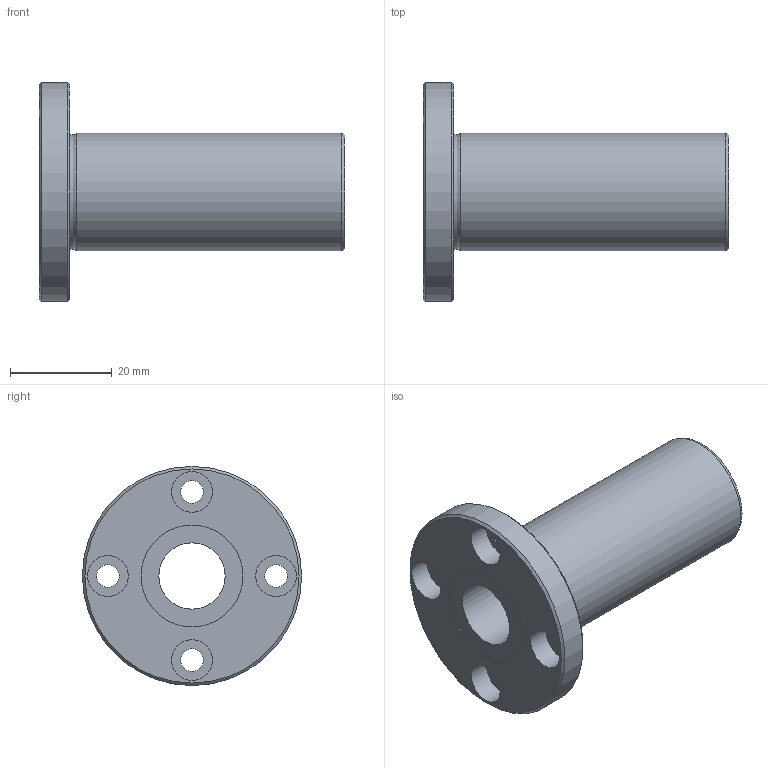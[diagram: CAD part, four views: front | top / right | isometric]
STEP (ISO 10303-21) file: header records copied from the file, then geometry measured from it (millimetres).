
FILE_DESCRIPTION((''),'2;1');
FILE_NAME('D:\製品 (図面)\カタログ用3D\リニアベアリング関連\STEP形式\LFD\LFD13.stp','2010-06-03T09:20:24',('Tsuchiya'),(''),'Autodesk Inventor 10','Autodesk Inventor 10','');
FILE_SCHEMA(('AUTOMOTIVE_DESIGN { 1 0 10303 214 1 1 1 1 }'));
Length unit declared in the file: millimetre
Products named in the file (1): LFD13
Bounding box: 60 x 43 x 43 mm (x, y, z)
Volume: 22111.7 mm3; surface area: 10126.6 mm2
Topology: 1 solids, 1 shells, 26 faces, 47 edges, 30 vertices
Faces by surface type: cylinder 13, plane 9, cone 2, torus 1, bspline 1
Full cylindrical faces by diameter (mm): 4.5 x4, 8 x4, 13 x1, 20 x2, 23 x1, 43 x1
Entity records: 665 total; most frequent: CARTESIAN_POINT 149, DIRECTION 112, ORIENTED_EDGE 60, EDGE_LOOP 60, AXIS2_PLACEMENT_3D 56, FACE_BOUND 34, VERTEX_POINT 30, CIRCLE 30
